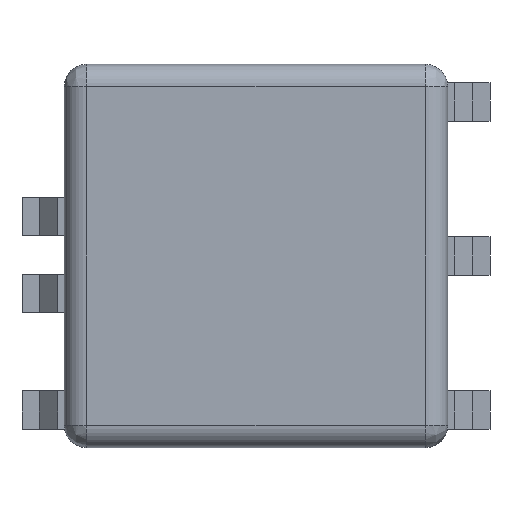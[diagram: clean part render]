
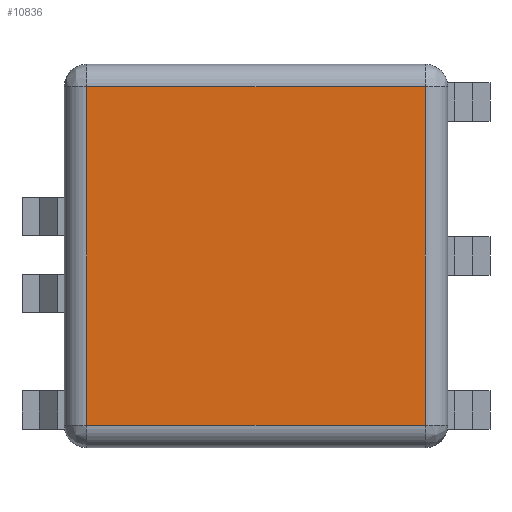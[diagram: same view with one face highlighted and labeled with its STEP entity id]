
A CAD part, front view. The second image highlights one B-rep face of the part: STEP entity #10836.
In plain terms, the highlighted planar face has unit normal (0, -1, 0).
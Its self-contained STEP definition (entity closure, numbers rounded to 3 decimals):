
#553 = DIRECTION ( 'NONE',  ( -1., 0., 0. ) ) ;
#1667 = ORIENTED_EDGE ( 'NONE', *, *, #2823, .T. ) ;
#2104 = VERTEX_POINT ( 'NONE', #5613 ) ;
#2823 = EDGE_CURVE ( 'NONE', #4360, #8767, #10607, .T. ) ;
#3063 = FACE_OUTER_BOUND ( 'NONE', #8026, .T. ) ;
#3696 = AXIS2_PLACEMENT_3D ( 'NONE', #8424, #12345, #10272 ) ;
#4360 = VERTEX_POINT ( 'NONE', #5964 ) ;
#4686 = LINE ( 'NONE', #8611, #5970 ) ;
#4770 = EDGE_CURVE ( 'NONE', #11494, #4360, #6785, .T. ) ;
#4802 = DIRECTION ( 'NONE',  ( 0., 0., -1. ) ) ;
#4900 = CARTESIAN_POINT ( 'NONE',  ( -44.621, -13.595, -11.2 ) ) ;
#5301 = CARTESIAN_POINT ( 'NONE',  ( -44.621, -13.595, -11.2 ) ) ;
#5613 = CARTESIAN_POINT ( 'NONE',  ( -44.621, -13.595, 11.2 ) ) ;
#5964 = CARTESIAN_POINT ( 'NONE',  ( -22.221, -13.595, -11.2 ) ) ;
#5970 = VECTOR ( 'NONE', #553, 1000. ) ;
#6049 = VECTOR ( 'NONE', #4802, 1000. ) ;
#6422 = PLANE ( 'NONE',  #3696 ) ;
#6785 = LINE ( 'NONE', #5301, #10962 ) ;
#7532 = ORIENTED_EDGE ( 'NONE', *, *, #12514, .T. ) ;
#8026 = EDGE_LOOP ( 'NONE', ( #11710, #1667, #11288, #7532 ) ) ;
#8424 = CARTESIAN_POINT ( 'NONE',  ( -44.621, -13.595, -11.2 ) ) ;
#8611 = CARTESIAN_POINT ( 'NONE',  ( -44.621, -13.595, 11.2 ) ) ;
#8618 = CARTESIAN_POINT ( 'NONE',  ( -22.221, -13.595, -11.2 ) ) ;
#8767 = VERTEX_POINT ( 'NONE', #12287 ) ;
#8931 = EDGE_CURVE ( 'NONE', #8767, #2104, #4686, .T. ) ;
#10272 = DIRECTION ( 'NONE',  ( 0., 0., -1. ) ) ;
#10482 = DIRECTION ( 'NONE',  ( 0., 0., 1. ) ) ;
#10518 = LINE ( 'NONE', #11738, #6049 ) ;
#10607 = LINE ( 'NONE', #8618, #10878 ) ;
#10836 = ADVANCED_FACE ( 'NONE', ( #3063 ), #6422, .T. ) ;
#10878 = VECTOR ( 'NONE', #10482, 1000. ) ;
#10962 = VECTOR ( 'NONE', #11026, 1000. ) ;
#11026 = DIRECTION ( 'NONE',  ( 1., 0., 0. ) ) ;
#11288 = ORIENTED_EDGE ( 'NONE', *, *, #8931, .T. ) ;
#11494 = VERTEX_POINT ( 'NONE', #4900 ) ;
#11710 = ORIENTED_EDGE ( 'NONE', *, *, #4770, .T. ) ;
#11738 = CARTESIAN_POINT ( 'NONE',  ( -44.621, -13.595, -11.2 ) ) ;
#12287 = CARTESIAN_POINT ( 'NONE',  ( -22.221, -13.595, 11.2 ) ) ;
#12345 = DIRECTION ( 'NONE',  ( 0., -1., 0. ) ) ;
#12514 = EDGE_CURVE ( 'NONE', #2104, #11494, #10518, .T. ) ;
